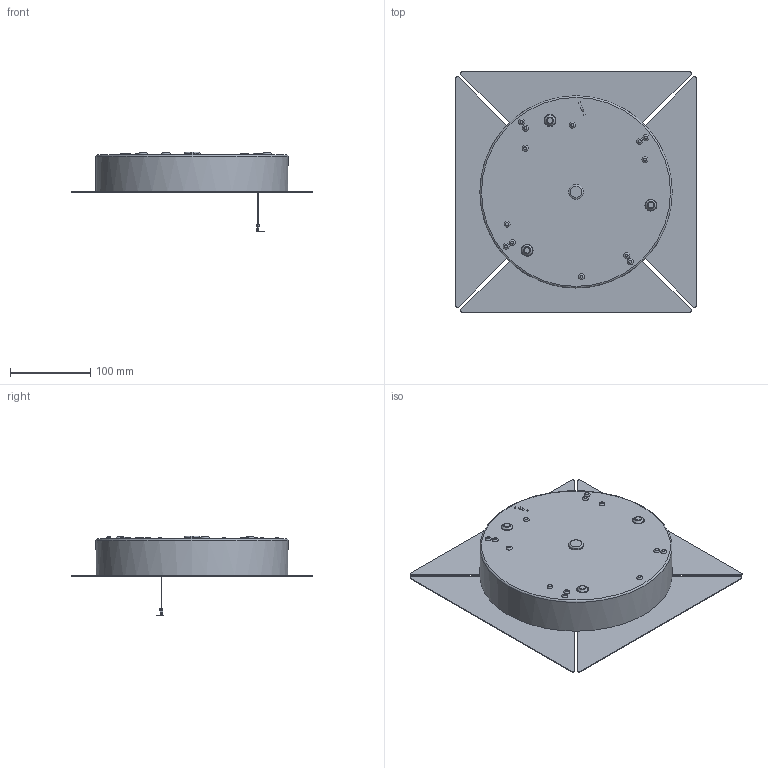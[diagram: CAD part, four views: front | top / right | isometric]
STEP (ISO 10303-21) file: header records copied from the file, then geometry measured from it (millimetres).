
FILE_DESCRIPTION(/* description */ ('Unknown'),/* implementation_level */ '2;1');
FILE_NAME(/* name */ '64368',/* time_stamp */ '2023-02-07T11:25:36-05:00',/* author */ ('Unknown'),/* organization */ ('Unknown'),/* preprocessor_version */ 'ST-DEVELOPER v18.1',/* originating_system */ 'Solid Edge',/* authorisation */ 'Unknown');
FILE_SCHEMA (('AUTOMOTIVE_DESIGN {1 0 10303 214 3 1 1}'));
Length unit declared in the file: millimetre
Products named in the file (1): 64368
Bounding box: 300 x 300 x 99.53 mm (x, y, z)
Volume: 2171512.5 mm3; surface area: 214138 mm2
Topology: 1 solids, 1 shells, 153 faces, 370 edges, 239 vertices
Faces by surface type: plane 86, cylinder 30, torus 21, cone 16
Full cylindrical faces by diameter (mm): 0.8 x1, 18.5 x1, 240 x1
Entity records: 4159 total; most frequent: DIRECTION 751, CARTESIAN_POINT 691, ORIENTED_EDGE 628, EDGE_CURVE 314, AXIS2_PLACEMENT_3D 283, VERTEX_POINT 223, EDGE_LOOP 215, FACE_BOUND 215
